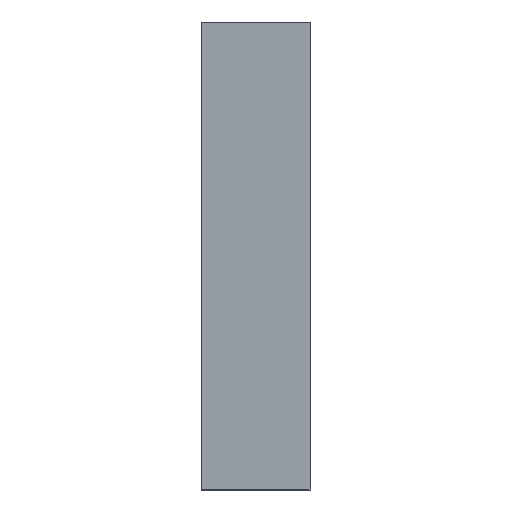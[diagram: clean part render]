
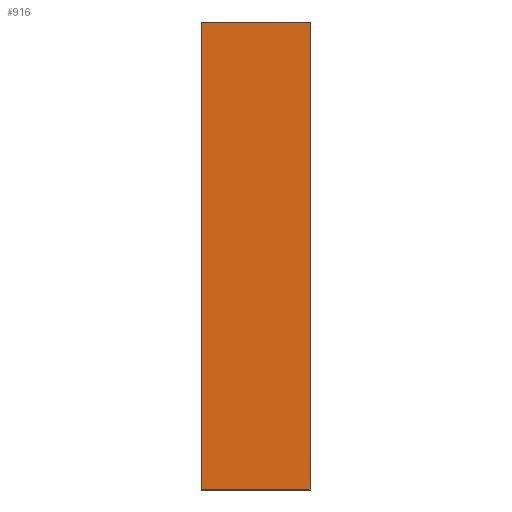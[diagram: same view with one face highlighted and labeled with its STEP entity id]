
A CAD part, front view. The second image highlights one B-rep face of the part: STEP entity #916.
In plain terms, the highlighted planar face has unit normal (0, -1, 0).
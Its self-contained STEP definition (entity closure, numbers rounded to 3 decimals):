
#133 = CARTESIAN_POINT ( 'NONE',  ( 0., -78., 98. ) ) ;
#480 = DIRECTION ( 'NONE',  ( 0., -1., 0. ) ) ;
#793 = ORIENTED_EDGE ( 'NONE', *, *, #4778, .F. ) ;
#825 = DIRECTION ( 'NONE',  ( 0., 0., 1. ) ) ;
#916 = ADVANCED_FACE ( 'NONE', ( #4475 ), #6481, .T. ) ;
#1470 = DIRECTION ( 'NONE',  ( 0., 0., 1. ) ) ;
#1607 = EDGE_CURVE ( 'NONE', #6425, #6301, #6473, .T. ) ;
#1822 = LINE ( 'NONE', #2948, #5874 ) ;
#1959 = CARTESIAN_POINT ( 'NONE',  ( 0., -78., -98. ) ) ;
#1976 = CARTESIAN_POINT ( 'NONE',  ( -46., -78., -98. ) ) ;
#2185 = VECTOR ( 'NONE', #1470, 1000. ) ;
#2200 = VECTOR ( 'NONE', #5496, 1000. ) ;
#2205 = DIRECTION ( 'NONE',  ( 1., 0., 0. ) ) ;
#2652 = CARTESIAN_POINT ( 'NONE',  ( -46., -78., -98. ) ) ;
#2934 = EDGE_CURVE ( 'NONE', #6425, #4132, #6221, .T. ) ;
#2948 = CARTESIAN_POINT ( 'NONE',  ( 0., -78., -98. ) ) ;
#3481 = LINE ( 'NONE', #6054, #2200 ) ;
#3709 = DIRECTION ( 'NONE',  ( 0., 0., -1. ) ) ;
#3722 = VERTEX_POINT ( 'NONE', #133 ) ;
#4089 = ORIENTED_EDGE ( 'NONE', *, *, #2934, .T. ) ;
#4132 = VERTEX_POINT ( 'NONE', #1959 ) ;
#4282 = ORIENTED_EDGE ( 'NONE', *, *, #1607, .F. ) ;
#4475 = FACE_OUTER_BOUND ( 'NONE', #5332, .T. ) ;
#4611 = CARTESIAN_POINT ( 'NONE',  ( -46., -78., -98. ) ) ;
#4778 = EDGE_CURVE ( 'NONE', #6301, #3722, #3481, .T. ) ;
#5165 = ORIENTED_EDGE ( 'NONE', *, *, #6489, .T. ) ;
#5171 = CARTESIAN_POINT ( 'NONE',  ( -46., -78., 98. ) ) ;
#5256 = VECTOR ( 'NONE', #2205, 1000. ) ;
#5332 = EDGE_LOOP ( 'NONE', ( #5165, #793, #4282, #4089 ) ) ;
#5496 = DIRECTION ( 'NONE',  ( 1., 0., 0. ) ) ;
#5785 = AXIS2_PLACEMENT_3D ( 'NONE', #1976, #480, #3709 ) ;
#5874 = VECTOR ( 'NONE', #825, 1000. ) ;
#6054 = CARTESIAN_POINT ( 'NONE',  ( -46., -78., 98. ) ) ;
#6221 = LINE ( 'NONE', #4611, #5256 ) ;
#6301 = VERTEX_POINT ( 'NONE', #5171 ) ;
#6406 = CARTESIAN_POINT ( 'NONE',  ( -46., -78., -98. ) ) ;
#6425 = VERTEX_POINT ( 'NONE', #2652 ) ;
#6473 = LINE ( 'NONE', #6406, #2185 ) ;
#6481 = PLANE ( 'NONE',  #5785 ) ;
#6489 = EDGE_CURVE ( 'NONE', #4132, #3722, #1822, .T. ) ;
